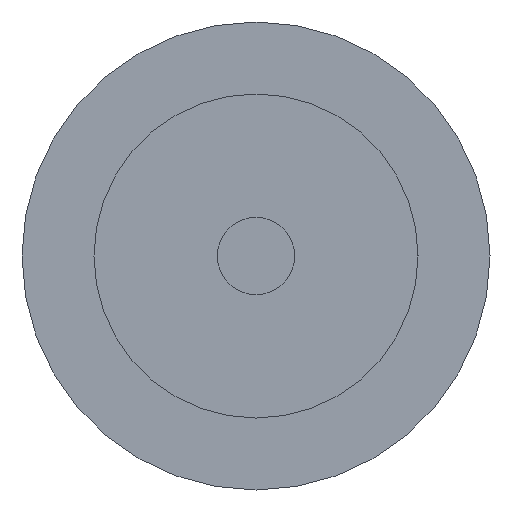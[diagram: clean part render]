
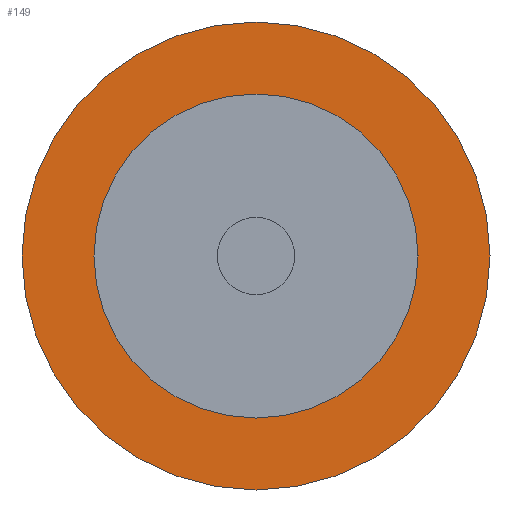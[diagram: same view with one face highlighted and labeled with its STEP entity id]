
A CAD part, left-side view. The second image highlights one B-rep face of the part: STEP entity #149.
In plain terms, the highlighted planar face has unit normal (-1, 0, 0).
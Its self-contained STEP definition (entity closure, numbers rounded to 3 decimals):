
#110=PLANE('',#392);
#128=FACE_BOUND('',#205,.T.);
#149=ADVANCED_FACE('',(#173,#128),#110,.F.);
#173=FACE_OUTER_BOUND('',#204,.T.);
#204=EDGE_LOOP('',(#284));
#205=EDGE_LOOP('',(#285));
#284=ORIENTED_EDGE('',*,*,#343,.F.);
#285=ORIENTED_EDGE('',*,*,#342,.T.);
#311=VERTEX_POINT('',#1692);
#312=VERTEX_POINT('',#1695);
#342=EDGE_CURVE('',#311,#311,#358,.T.);
#343=EDGE_CURVE('',#312,#312,#359,.T.);
#358=CIRCLE('',#389,4.);
#359=CIRCLE('',#391,13.);
#389=AXIS2_PLACEMENT_3D('',#1691,#455,#456);
#391=AXIS2_PLACEMENT_3D('',#1694,#459,#460);
#392=AXIS2_PLACEMENT_3D('',#1696,#461,#462);
#455=DIRECTION('',(1.,0.,0.));
#456=DIRECTION('',(0.,0.,1.));
#459=DIRECTION('',(1.,0.,0.));
#460=DIRECTION('',(0.,0.,-1.));
#461=DIRECTION('',(1.,0.,0.));
#462=DIRECTION('',(0.,0.,-1.));
#1691=CARTESIAN_POINT('',(356.897,-252.741,78.1));
#1692=CARTESIAN_POINT('',(356.897,-252.741,82.1));
#1694=CARTESIAN_POINT('',(356.897,-252.741,78.1));
#1695=CARTESIAN_POINT('',(356.897,-252.741,65.1));
#1696=CARTESIAN_POINT('',(356.897,-252.741,78.1));
